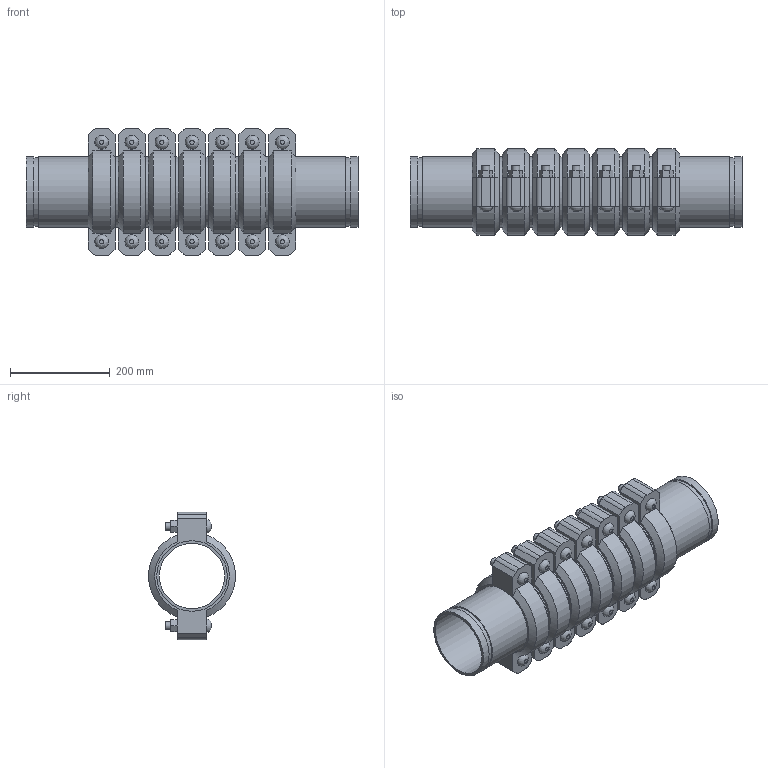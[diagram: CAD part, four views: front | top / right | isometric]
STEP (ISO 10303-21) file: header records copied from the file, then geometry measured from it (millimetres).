
FILE_DESCRIPTION(/* description */ ('VIC EXPANSION JOINT 7 COUPLINGS COMPRESSED STYLE 155 (OGS)','CAx-IF Rec.Pracs.---Representation and Presentation of Product Manufacturing Information (PMI)---4.0---2014-10-13'),/* implementation_level */ '2;1');
FILE_NAME(/* name */ 'C:\Users\kkamble\AppData\Roaming\Autodesk\ApplicationPlugins\Victaulic.Temp\A262\Victaulic_IPS_Expansion Joint_Compressed_7 Couplings_Style 155 (OGS)_5 (125).stp',/* time_stamp */ '2021-06-27T00:34:06+02:00',/* author */ ('kkamble'),/* organization */ ('Victaulic'),/* preprocessor_version */ 'ST-DEVELOPER v17.2',/* originating_system */ 'Autodesk Inventor 2019',/* authorisation */ '');
FILE_SCHEMA (('AP242_MANAGED_MODEL_BASED_3D_ENGINEERING_MIM_LF { 1 0 10303 442 1 1 4 }'));
Length unit declared in the file: inch
Products named in the file (4): 155-05.0; Nipple-05.0; Nipple-05.0_1; 075_7_Coup-05.0
Assembly tree (15 placements, depth 2):
  155-05.0
    Nipple-05.0  x2
    Nipple-05.0_1  x6
    075_7_Coup-05.0  x7
Bounding box: 666.75 x 174.16 x 255.78 mm (x, y, z)
Volume: 6008789.8 mm3; surface area: 1340965.9 mm2
Topology: 15 solids, 29 shells, 495 faces, 1171 edges, 822 vertices
Faces by surface type: plane 300, cylinder 153, cone 28, bspline 14
Full cylindrical faces by diameter (mm): 15.875 x28, 17.424 x14, 130.988 x8, 134.95 x7, 137.033 x16, 141.3 x38
Entity records: 2842 total; most frequent: CARTESIAN_POINT 499, DIRECTION 473, ORIENTED_EDGE 386, EDGE_CURVE 193, AXIS2_PLACEMENT_3D 190, VERTEX_POINT 138, EDGE_LOOP 107, LINE 93
